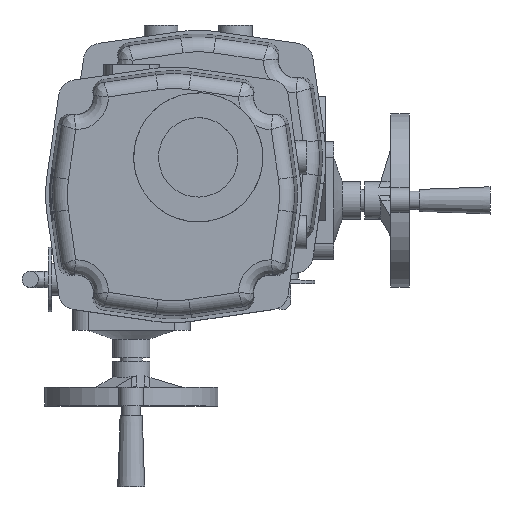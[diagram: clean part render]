
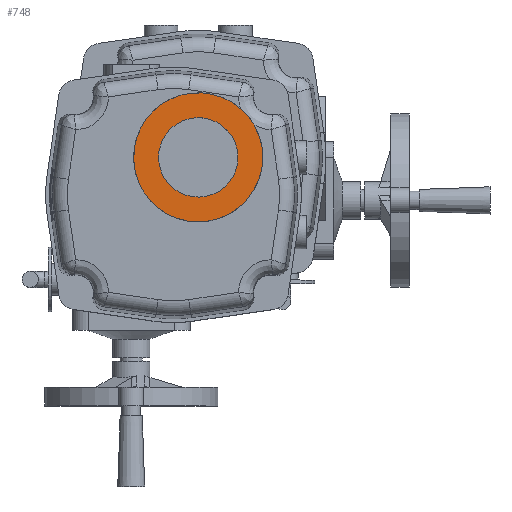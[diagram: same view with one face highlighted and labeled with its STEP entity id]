
A CAD part, top view. The second image highlights one B-rep face of the part: STEP entity #748.
In plain terms, the highlighted planar face has unit normal (0, 0, 1).
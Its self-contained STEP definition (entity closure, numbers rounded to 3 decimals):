
#748 = ADVANCED_FACE( '', ( #2134, #2135 ), #2136, .F. );
#2134 = FACE_BOUND( '', #4566, .T. );
#2135 = FACE_OUTER_BOUND( '', #4567, .T. );
#2136 = PLANE( '', #4568 );
#4566 = EDGE_LOOP( '', ( #13746 ) );
#4567 = EDGE_LOOP( '', ( #13747 ) );
#4568 = AXIS2_PLACEMENT_3D( '', #13748, #13749, #13750 );
#13746 = ORIENTED_EDGE( '', *, *, #19225, .T. );
#13747 = ORIENTED_EDGE( '', *, *, #19226, .F. );
#13748 = CARTESIAN_POINT( '', ( -30., 20., 132. ) );
#13749 = DIRECTION( '', ( 0., 0., -1. ) );
#13750 = DIRECTION( '', ( -1., 0., 0. ) );
#19225 = EDGE_CURVE( '', #21561, #21561, #21562, .T. );
#19226 = EDGE_CURVE( '', #21563, #21563, #21564, .T. );
#21561 = VERTEX_POINT( '', #25475 );
#21562 = CIRCLE( '', #25476, 32. );
#21563 = VERTEX_POINT( '', #25477 );
#21564 = CIRCLE( '', #25478, 52. );
#25475 = CARTESIAN_POINT( '', ( -34.615, -11.666, 132. ) );
#25476 = AXIS2_PLACEMENT_3D( '', #37389, #37390, #37391 );
#25477 = CARTESIAN_POINT( '', ( -37.499, -31.456, 132. ) );
#25478 = AXIS2_PLACEMENT_3D( '', #37392, #37393, #37394 );
#37389 = CARTESIAN_POINT( '', ( -30., 20., 132. ) );
#37390 = DIRECTION( '', ( 0., 0., -1. ) );
#37391 = DIRECTION( '', ( -0.144, -0.99, 0. ) );
#37392 = CARTESIAN_POINT( '', ( -30., 20., 132. ) );
#37393 = DIRECTION( '', ( 0., 0., -1. ) );
#37394 = DIRECTION( '', ( -0.144, -0.99, 0. ) );
